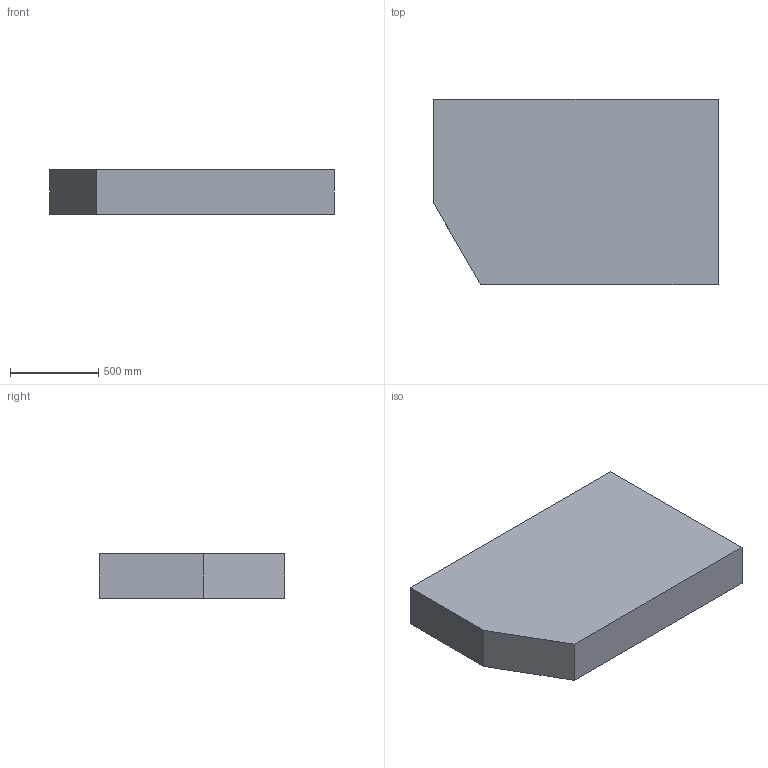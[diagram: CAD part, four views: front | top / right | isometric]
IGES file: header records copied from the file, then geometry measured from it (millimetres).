
Start section:  PTC IGES file: fr_dr_bkwd_flux_plate.igs
Global section: file name: fr_dr_bkwd_flux_plate.igs; native system: Pro/ENGINEER by Parametric Technology Corporation; preprocessor: 1999260; author: oshatz; organization: Unknown; date: 000922.101746; units: millimetre
Bounding box: 1608.4 x 1049 x 250 mm (x, y, z)
Surface area: 4533637.9 mm2 (no closed solid volume)
Topology: 0 solids, 0 shells, 7 faces, 30 edges, 30 vertices
Faces by surface type: bspline 7
